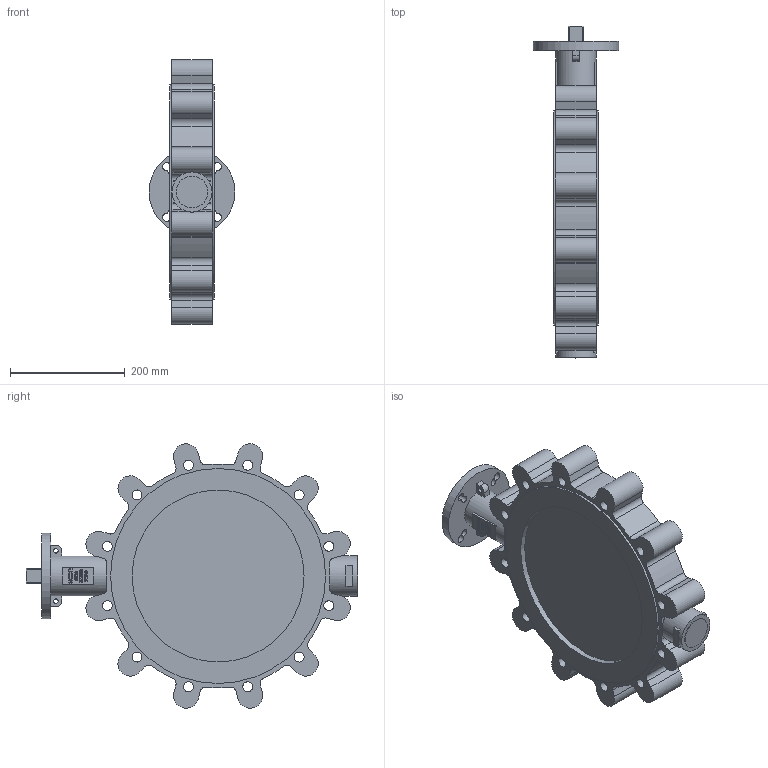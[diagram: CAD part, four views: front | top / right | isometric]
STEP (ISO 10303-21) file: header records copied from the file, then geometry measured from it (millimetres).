
FILE_DESCRIPTION(/* description */ (''),/* implementation_level */ '2;1');
FILE_NAME(/* name */ '6820-DN300-PN10-NBR - 13548570.stp',/* time_stamp */ '2024-09-05T07:42:58+02:00',/* author */ ('roger.thijssen'),/* organization */ (''),/* preprocessor_version */ 'ST-DEVELOPER v20',/* originating_system */ 'Autodesk Inventor 2024',/* authorisation */ '');
FILE_SCHEMA (('AUTOMOTIVE_DESIGN { 1 0 10303 214 3 1 1 }'));
Length unit declared in the file: millimetre
Products named in the file (1): 6820-DN300-PN10
Bounding box: 150 x 579 x 461.08 mm (x, y, z)
Volume: 9939312.5 mm3; surface area: 559972.9 mm2
Topology: 1 solids, 1 shells, 519 faces, 1406 edges, 931 vertices
Faces by surface type: plane 254, bspline 139, cylinder 121, cone 5
Full cylindrical faces by diameter (mm): 6.647 x1, 8 x2, 17.294 x12, 55 x1, 70 x2, 150 x1, 300 x2, 375 x2
Entity records: 18282 total; most frequent: CARTESIAN_POINT 5302, ORIENTED_EDGE 2810, DIRECTION 2121, EDGE_CURVE 1405, VERTEX_POINT 931, LINE 839, VECTOR 839, AXIS2_PLACEMENT_3D 641
